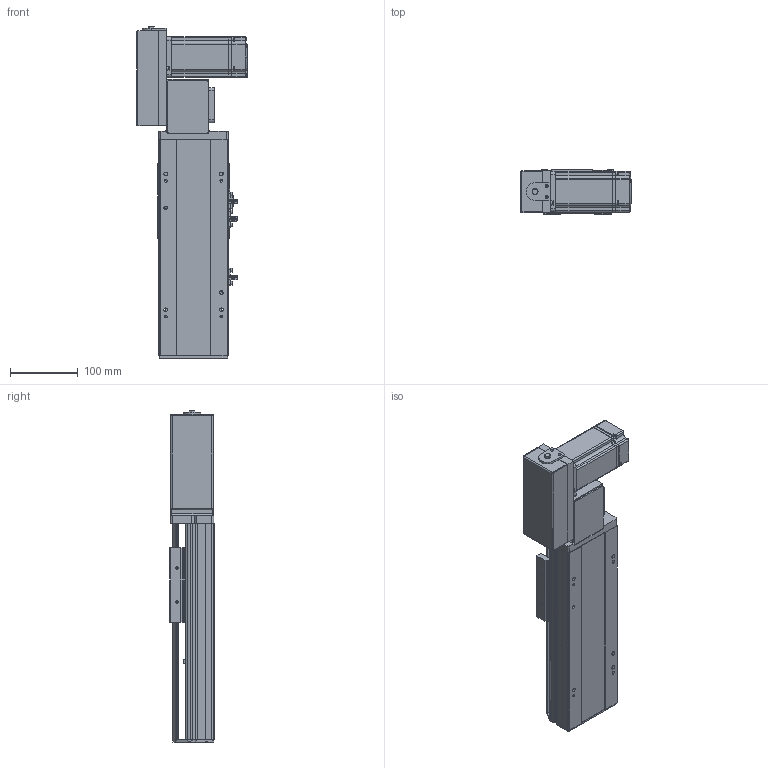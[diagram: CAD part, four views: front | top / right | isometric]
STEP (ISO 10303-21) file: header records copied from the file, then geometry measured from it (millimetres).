
FILE_DESCRIPTION (( 'STEP AP214' ), '1' );
FILE_NAME ('TPT10-L41.6-100-L-T20-C4.STEP', '2023-03-02T06:18:23', ( '' ), ( '' ), 'SwSTEP 2.0', 'SolidWorks 2020', '' );
FILE_SCHEMA (( 'AUTOMOTIVE_DESIGN' ));
Length unit declared in the file: millimetre
Products named in the file (11): TPT10-L41.6-100-L-T20-C4; 葩璃 侂狟400W^TPT10-L41.6-L-T20-C4; 葩璃 TPT10-L-005 賑釱MZ-102A-03^TPT10-L41.6-L-T20-C4; 葩璃 TPT10-L-001 菁釱MZ-102A-01^TPT10-L41.6-L-T20-C4; hex nuts, style 1-grades ab gb_GB_FASTENER_NUT_SNAB1 M3-N; 葩璃 TPT10-L-002 奻裔MZ-102A-02^TPT10-L41.6-L-T20-C4; 葩璃 TPT10-L-009 萇儂啣^TPT10-L41.6-L-T20-C4_200W; 葩璃 TPT10-L-007 々湍釱MZ-169x88^TPT10-L41.6-L-T20-C4_L; 葩璃 pm-t65-672^TPT10-L41.6-L-T20-C4; hexagon head bolts-full thread gb_GB_FASTENER_BOLT_STBAB A M5X16-N; hexagon socket head cap screws gb_GB_FASTENER_SCREWS_HSHCS M3X6-N
Assembly tree (22 placements, depth 2):
  TPT10-L41.6-100-L-T20-C4
    葩璃 TPT10-L-001 菁釱MZ-102A-01^TPT10-L41.6-L-T20-C4
    葩璃 TPT10-L-002 奻裔MZ-102A-02^TPT10-L41.6-L-T20-C4
    葩璃 TPT10-L-007 々湍釱MZ-169x88^TPT10-L41.6-L-T20-C4_L
    葩璃 TPT10-L-005 賑釱MZ-102A-03^TPT10-L41.6-L-T20-C4
    葩璃 TPT10-L-009 萇儂啣^TPT10-L41.6-L-T20-C4_200W
    葩璃 pm-t65-672^TPT10-L41.6-L-T20-C4  x3
    葩璃 侂狟400W^TPT10-L41.6-L-T20-C4
    hexagon head bolts-full thread gb_GB_FASTENER_BOLT_STBAB A M5X16-N
    hexagon socket head cap screws gb_GB_FASTENER_SCREWS_HSHCS M3X6-N  x6
    hex nuts, style 1-grades ab gb_GB_FASTENER_NUT_SNAB1 M3-N  x6
Bounding box: 162.5 x 66 x 488.65 mm (x, y, z)
Volume: 1806232.2 mm3; surface area: 408174 mm2
Topology: 30 solids, 30 shells, 1594 faces, 4141 edges, 2642 vertices
Faces by surface type: plane 922, cylinder 464, cone 170, bspline 26, torus 12
Entity records: 37735 total; most frequent: CARTESIAN_POINT 7292, DIRECTION 6126, ORIENTED_EDGE 5934, EDGE_CURVE 2967, AXIS2_PLACEMENT_3D 2107, VERTEX_POINT 1933, LINE 1912, VECTOR 1912
